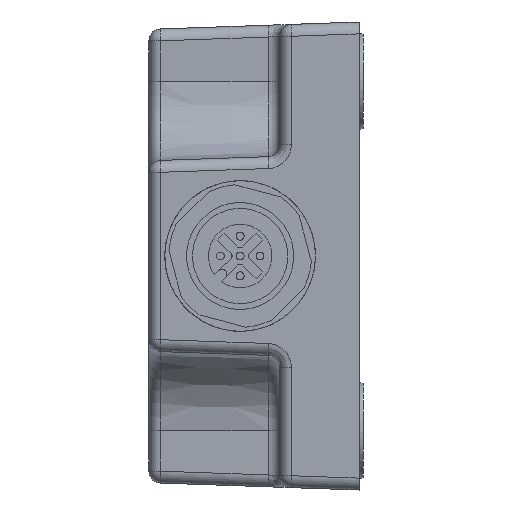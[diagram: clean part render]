
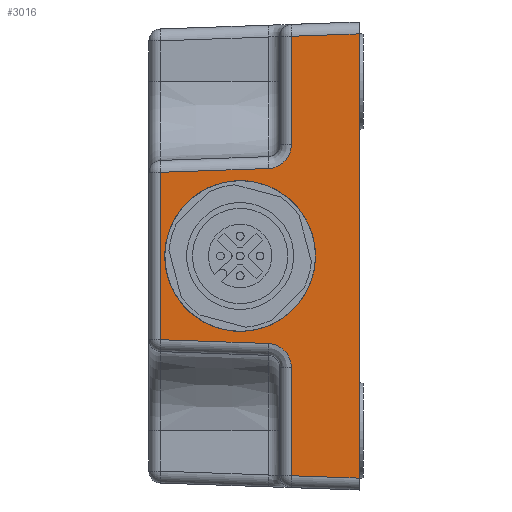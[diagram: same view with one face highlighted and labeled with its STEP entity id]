
A CAD part, left-side view. The second image highlights one B-rep face of the part: STEP entity #3016.
In plain terms, the highlighted planar face has unit normal (-0.999, 0.035, 0).
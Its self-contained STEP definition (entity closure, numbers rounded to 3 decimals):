
#73 = CARTESIAN_POINT ( 'NONE',  ( -38.413, -12.259, -29.5 ) ) ;
#473 = VERTEX_POINT ( 'NONE', #28050 ) ;
#1004 =( BOUNDED_CURVE ( )  B_SPLINE_CURVE ( 3, ( #5095, #22255, #7540, #24699 ),
 .UNSPECIFIED., .F., .F. ) 
 B_SPLINE_CURVE_WITH_KNOTS ( ( 4, 4 ),
 ( 1.606, 3.142 ),
 .UNSPECIFIED. ) 
 CURVE ( )  GEOMETRIC_REPRESENTATION_ITEM ( )  RATIONAL_B_SPLINE_CURVE ( ( 1., 0.813, 0.813, 1. ) ) 
 REPRESENTATION_ITEM ( '' )  );
#1433 = VERTEX_POINT ( 'NONE', #15573 ) ;
#1554 = CARTESIAN_POINT ( 'NONE',  ( -38.413, -12.259, -29.5 ) ) ;
#1970 = ORIENTED_EDGE ( 'NONE', *, *, #13633, .T. ) ;
#2143 = CARTESIAN_POINT ( 'NONE',  ( -37.889, 2.741, 9.5 ) ) ;
#2144 = CARTESIAN_POINT ( 'NONE',  ( -37.538, 12.793, 10.551 ) ) ;
#2398 = CARTESIAN_POINT ( 'NONE',  ( -38.363, -10.833, 11.377 ) ) ;
#2693 = FACE_OUTER_BOUND ( 'NONE', #18652, .T. ) ;
#3016 = ADVANCED_FACE ( 'NONE', ( #4994, #2693 ), #13756, .T. ) ;
#3189 = EDGE_CURVE ( 'NONE', #1433, #18627, #13413, .T. ) ;
#3602 = CARTESIAN_POINT ( 'NONE',  ( -38.413, -12.259, 28.001 ) ) ;
#3614 = CARTESIAN_POINT ( 'NONE',  ( -38.114, -3.707, 14.025 ) ) ;
#3652 = LINE ( 'NONE', #9130, #15902 ) ;
#3653 = DIRECTION ( 'NONE',  ( 0., 0., -1. ) ) ;
#3897 = DIRECTION ( 'NONE',  ( -0.035, -0.999, -0.035 ) ) ;
#4061 = CARTESIAN_POINT ( 'NONE',  ( -37.889, 2.741, 9.5 ) ) ;
#4460 = EDGE_CURVE ( 'NONE', #22952, #16367, #3652, .T. ) ;
#4586 = CARTESIAN_POINT ( 'NONE',  ( -38.073, -2.52, -11.086 ) ) ;
#4833 = EDGE_CURVE ( 'NONE', #8724, #22578, #29995, .T. ) ;
#4994 = FACE_BOUND ( 'NONE', #28354, .T. ) ;
#5095 = CARTESIAN_POINT ( 'NONE',  ( -38.013, -0.811, 11.027 ) ) ;
#6371 = CARTESIAN_POINT ( 'NONE',  ( -38.114, -3.707, -14.025 ) ) ;
#6476 = DIRECTION ( 'NONE',  ( -0.999, 0.035, 0. ) ) ;
#7413 = DIRECTION ( 'NONE',  ( 0.035, 0.999, -0.035 ) ) ;
#7540 = CARTESIAN_POINT ( 'NONE',  ( -38.114, -3.707, 12.316 ) ) ;
#8724 = VERTEX_POINT ( 'NONE', #26502 ) ;
#8828 = LINE ( 'NONE', #73, #21137 ) ;
#9044 = CARTESIAN_POINT ( 'NONE',  ( -38.343, -10.256, 27.931 ) ) ;
#9130 = CARTESIAN_POINT ( 'NONE',  ( -37.538, 12.793, -12. ) ) ;
#9498 = LINE ( 'NONE', #9044, #27479 ) ;
#9530 = CARTESIAN_POINT ( 'NONE',  ( -37.889, 2.741, -9.5 ) ) ;
#9847 = ORIENTED_EDGE ( 'NONE', *, *, #25990, .T. ) ;
#10364 = CARTESIAN_POINT ( 'NONE',  ( -38.114, -3.707, -29.5 ) ) ;
#10604 =( BOUNDED_CURVE ( )  B_SPLINE_CURVE ( 3, ( #2143, #16817, #24241, #9530 ),
 .UNSPECIFIED., .F., .F. ) 
 B_SPLINE_CURVE_WITH_KNOTS ( ( 4, 4 ),
 ( 4.712, 7.854 ),
 .UNSPECIFIED. ) 
 CURVE ( )  GEOMETRIC_REPRESENTATION_ITEM ( )  RATIONAL_B_SPLINE_CURVE ( ( 1., 0.333, 0.333, 1. ) ) 
 REPRESENTATION_ITEM ( '' )  );
#10770 = VECTOR ( 'NONE', #7413, 1000. ) ;
#10793 = EDGE_CURVE ( 'NONE', #12411, #13036, #26086, .T. ) ;
#10999 = ORIENTED_EDGE ( 'NONE', *, *, #24547, .F. ) ;
#11363 = VECTOR ( 'NONE', #3897, 1000. ) ;
#11601 = DIRECTION ( 'NONE',  ( 0., 0., -1. ) ) ;
#12411 = VERTEX_POINT ( 'NONE', #6371 ) ;
#12433 = CARTESIAN_POINT ( 'NONE',  ( -37.889, 2.741, -9.5 ) ) ;
#12447 = AXIS2_PLACEMENT_3D ( 'NONE', #1554, #6476, #23643 ) ;
#12544 = EDGE_CURVE ( 'NONE', #31575, #8724, #9498, .T. ) ;
#13036 = VERTEX_POINT ( 'NONE', #18028 ) ;
#13413 = LINE ( 'NONE', #28815, #26459 ) ;
#13629 = ORIENTED_EDGE ( 'NONE', *, *, #30429, .T. ) ;
#13633 = EDGE_CURVE ( 'NONE', #16367, #13036, #17899, .T. ) ;
#13756 = PLANE ( 'NONE',  #12447 ) ;
#13793 = CARTESIAN_POINT ( 'NONE',  ( -38.553, -16.259, -9.5 ) ) ;
#14175 = DIRECTION ( 'NONE',  ( -0.035, -0.999, -0.035 ) ) ;
#14627 = EDGE_CURVE ( 'NONE', #30950, #24574, #27613, .T. ) ;
#14722 = DIRECTION ( 'NONE',  ( 0., 0., 1. ) ) ;
#15236 = ORIENTED_EDGE ( 'NONE', *, *, #4460, .T. ) ;
#15573 = CARTESIAN_POINT ( 'NONE',  ( -38.114, -3.707, -27.702 ) ) ;
#15581 = CARTESIAN_POINT ( 'NONE',  ( -37.538, 12.793, -10.551 ) ) ;
#15856 = CARTESIAN_POINT ( 'NONE',  ( -38.114, -3.707, -29.5 ) ) ;
#15902 = VECTOR ( 'NONE', #11601, 1000. ) ;
#16367 = VERTEX_POINT ( 'NONE', #15581 ) ;
#16817 = CARTESIAN_POINT ( 'NONE',  ( -37.226, 21.741, 9.5 ) ) ;
#16992 = ORIENTED_EDGE ( 'NONE', *, *, #12544, .T. ) ;
#17703 = VECTOR ( 'NONE', #25047, 1000. ) ;
#17899 = LINE ( 'NONE', #30705, #11363 ) ;
#18028 = CARTESIAN_POINT ( 'NONE',  ( -38.013, -0.811, -11.027 ) ) ;
#18344 = ORIENTED_EDGE ( 'NONE', *, *, #10793, .F. ) ;
#18627 = VERTEX_POINT ( 'NONE', #24398 ) ;
#18639 = CARTESIAN_POINT ( 'NONE',  ( -37.889, 2.741, -9.5 ) ) ;
#18652 = EDGE_LOOP ( 'NONE', ( #27471, #9847, #15236, #1970, #18344, #13629, #29815, #23097, #16992, #27063 ) ) ;
#18752 = CARTESIAN_POINT ( 'NONE',  ( -38.553, -16.259, 9.5 ) ) ;
#19292 = CARTESIAN_POINT ( 'NONE',  ( -38.114, -3.707, -14.025 ) ) ;
#19792 = ORIENTED_EDGE ( 'NONE', *, *, #14627, .F. ) ;
#21089 = EDGE_CURVE ( 'NONE', #473, #22578, #1004, .T. ) ;
#21137 = VECTOR ( 'NONE', #14722, 1000. ) ;
#21756 = CARTESIAN_POINT ( 'NONE',  ( -38.114, -3.707, -12.316 ) ) ;
#22255 = CARTESIAN_POINT ( 'NONE',  ( -38.073, -2.52, 11.086 ) ) ;
#22578 = VERTEX_POINT ( 'NONE', #3614 ) ;
#22952 = VERTEX_POINT ( 'NONE', #2144 ) ;
#23097 = ORIENTED_EDGE ( 'NONE', *, *, #26532, .T. ) ;
#23643 = DIRECTION ( 'NONE',  ( -0.035, -0.999, 0. ) ) ;
#23750 = DIRECTION ( 'NONE',  ( 0.035, 0.999, -0.035 ) ) ;
#23839 = LINE ( 'NONE', #2398, #10770 ) ;
#24205 = CARTESIAN_POINT ( 'NONE',  ( -38.013, -0.811, -11.027 ) ) ;
#24241 = CARTESIAN_POINT ( 'NONE',  ( -37.226, 21.741, -9.5 ) ) ;
#24398 = CARTESIAN_POINT ( 'NONE',  ( -38.413, -12.259, -28.001 ) ) ;
#24547 = EDGE_CURVE ( 'NONE', #24574, #30950, #10604, .T. ) ;
#24574 = VERTEX_POINT ( 'NONE', #31520 ) ;
#24699 = CARTESIAN_POINT ( 'NONE',  ( -38.114, -3.707, 14.025 ) ) ;
#25047 = DIRECTION ( 'NONE',  ( 0., 0., -1. ) ) ;
#25990 = EDGE_CURVE ( 'NONE', #473, #22952, #23839, .T. ) ;
#26086 =( BOUNDED_CURVE ( )  B_SPLINE_CURVE ( 3, ( #19292, #21756, #4586, #24205 ),
 .UNSPECIFIED., .F., .F. ) 
 B_SPLINE_CURVE_WITH_KNOTS ( ( 4, 4 ),
 ( 0., 1.536 ),
 .UNSPECIFIED. ) 
 CURVE ( )  GEOMETRIC_REPRESENTATION_ITEM ( )  RATIONAL_B_SPLINE_CURVE ( ( 1., 0.813, 0.813, 1. ) ) 
 REPRESENTATION_ITEM ( '' )  );
#26459 = VECTOR ( 'NONE', #14175, 1000. ) ;
#26502 = CARTESIAN_POINT ( 'NONE',  ( -38.114, -3.707, 27.702 ) ) ;
#26532 = EDGE_CURVE ( 'NONE', #18627, #31575, #8828, .T. ) ;
#27063 = ORIENTED_EDGE ( 'NONE', *, *, #4833, .T. ) ;
#27471 = ORIENTED_EDGE ( 'NONE', *, *, #21089, .F. ) ;
#27479 = VECTOR ( 'NONE', #23750, 1000. ) ;
#27613 =( BOUNDED_CURVE ( )  B_SPLINE_CURVE ( 3, ( #18639, #13793, #18752, #4061 ),
 .UNSPECIFIED., .F., .F. ) 
 B_SPLINE_CURVE_WITH_KNOTS ( ( 4, 4 ),
 ( 1.571, 4.712 ),
 .UNSPECIFIED. ) 
 CURVE ( )  GEOMETRIC_REPRESENTATION_ITEM ( )  RATIONAL_B_SPLINE_CURVE ( ( 1., 0.333, 0.333, 1. ) ) 
 REPRESENTATION_ITEM ( '' )  );
#28050 = CARTESIAN_POINT ( 'NONE',  ( -38.013, -0.811, 11.027 ) ) ;
#28354 = EDGE_LOOP ( 'NONE', ( #19792, #10999 ) ) ;
#28815 = CARTESIAN_POINT ( 'NONE',  ( -38.415, -12.311, -28.003 ) ) ;
#29237 = VECTOR ( 'NONE', #3653, 1000. ) ;
#29815 = ORIENTED_EDGE ( 'NONE', *, *, #3189, .T. ) ;
#29895 = LINE ( 'NONE', #10364, #17703 ) ;
#29995 = LINE ( 'NONE', #15856, #29237 ) ;
#30429 = EDGE_CURVE ( 'NONE', #12411, #1433, #29895, .T. ) ;
#30705 = CARTESIAN_POINT ( 'NONE',  ( -38.435, -12.889, -11.448 ) ) ;
#30950 = VERTEX_POINT ( 'NONE', #12433 ) ;
#31520 = CARTESIAN_POINT ( 'NONE',  ( -37.889, 2.741, 9.5 ) ) ;
#31575 = VERTEX_POINT ( 'NONE', #3602 ) ;
